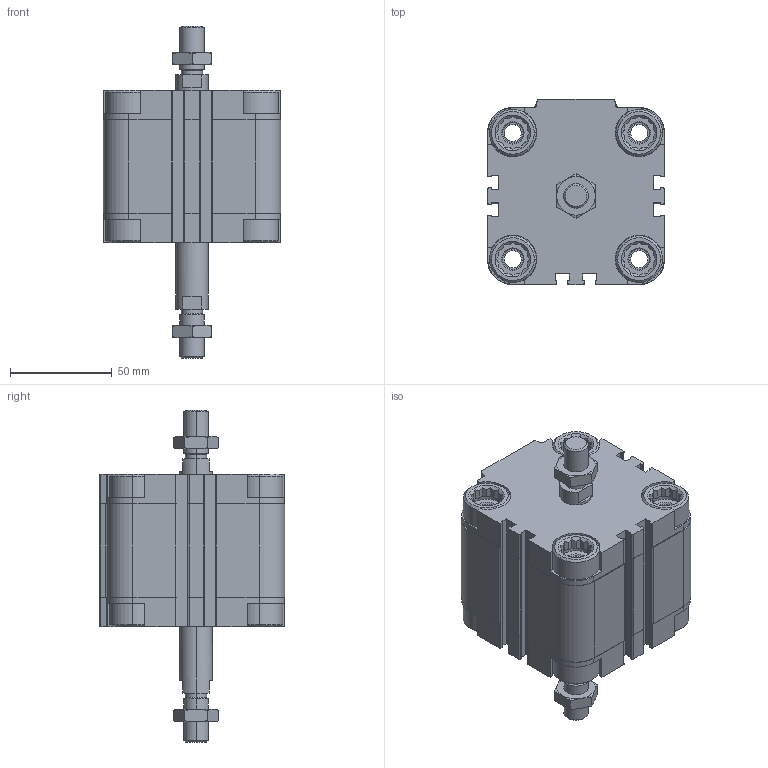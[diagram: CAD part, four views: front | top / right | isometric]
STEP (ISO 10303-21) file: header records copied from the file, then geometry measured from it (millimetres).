
FILE_DESCRIPTION (( 'STEP AP203' ), '1' );
FILE_NAME ('CDVU63-25M-P.STEP', '2020-07-21T15:21:24', ( '' ), ( '' ), 'SwSTEP 2.0', 'SolidWorks 2019', '' );
FILE_SCHEMA (( 'CONFIG_CONTROL_DESIGN' ));
Length unit declared in the file: millimetre
Products named in the file (1): CDVU63-25M-P
Bounding box: 87 x 91 x 163 mm (x, y, z)
Volume: 449165.7 mm3; surface area: 96727.1 mm2
Topology: 4 solids, 4 shells, 658 faces, 1744 edges, 1138 vertices
Faces by surface type: plane 386, cylinder 192, cone 80
Entity records: 21255 total; most frequent: CARTESIAN_POINT 4809, ORIENTED_EDGE 3480, DIRECTION 3322, EDGE_CURVE 1740, AXIS2_PLACEMENT_3D 1139, VERTEX_POINT 1138, LINE 1044, VECTOR 1044
